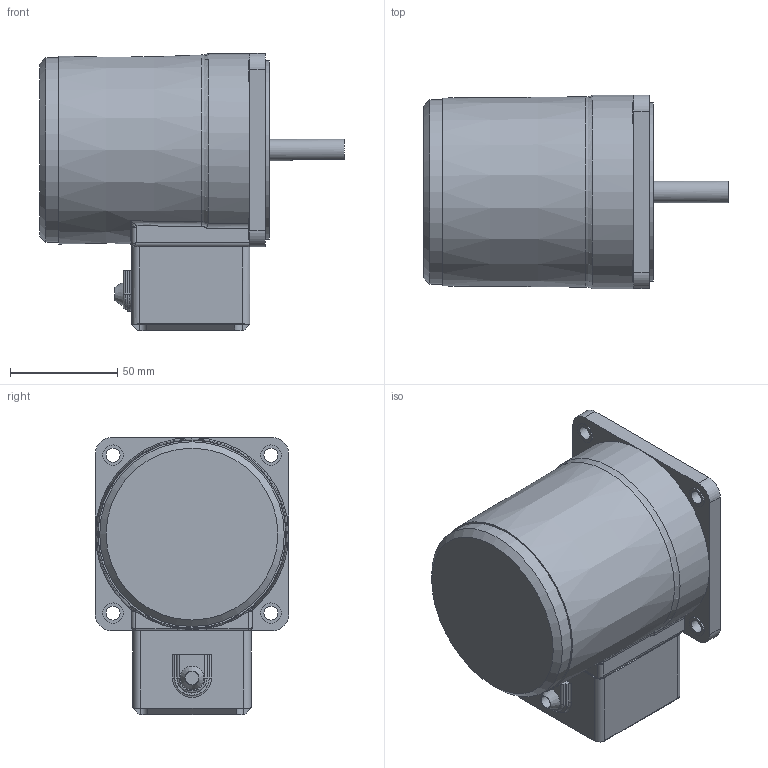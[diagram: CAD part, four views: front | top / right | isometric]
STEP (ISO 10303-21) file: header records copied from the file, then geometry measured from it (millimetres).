
FILE_DESCRIPTION((''),'2;1');
FILE_NAME('D:\STP파일\40W MOTOR\T1 BOX TYPE\S9I40K-T1.stp','2013-05-20T16:57:41',('leebh'),(''),'Autodesk Inventor 2011','Autodesk Inventor 2011','');
FILE_SCHEMA(('AUTOMOTIVE_DESIGN { 1 0 10303 214 1 1 1 1 }'));
Length unit declared in the file: millimetre
Products named in the file (1): 부품3
Bounding box: 142 x 90 x 129 mm (x, y, z)
Volume: 778706.8 mm3; surface area: 58851.2 mm2
Topology: 1 solids, 2 shells, 158 faces, 394 edges, 248 vertices
Faces by surface type: plane 71, cylinder 61, bspline 19, torus 4, cone 3
Full cylindrical faces by diameter (mm): 6.5 x4, 8 x1, 9.5 x4, 10 x1, 40 x1, 83 x1, 86 x1
Entity records: 5241 total; most frequent: CARTESIAN_POINT 1534, DIRECTION 767, ORIENTED_EDGE 740, EDGE_CURVE 370, AXIS2_PLACEMENT_3D 289, VERTEX_POINT 245, EDGE_LOOP 195, VECTOR 189
